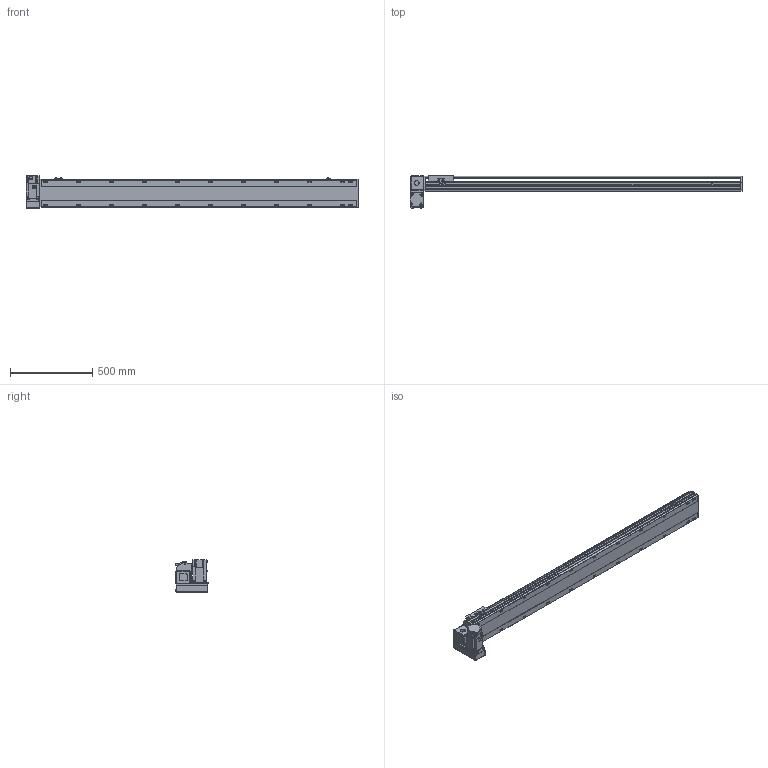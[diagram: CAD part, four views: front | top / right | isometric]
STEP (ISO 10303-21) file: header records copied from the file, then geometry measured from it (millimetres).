
FILE_DESCRIPTION(/* description */ ('STEP AP214'),/* implementation_level */ '2;1');
FILE_NAME(/* name */ 'PBS170-P40-S1650-LD-T75-C1-N(0)',/* time_stamp */ '2022-06-07T09:53:55+02:00',/* author */ ('License CC BY-ND 4.0'),/* organization */ ('CADENAS'),/* preprocessor_version */ 'ST-DEVELOPER v18.102',/* originating_system */ 'PARTsolutions',/* authorisation */ ' ');
FILE_SCHEMA (('AUTOMOTIVE_DESIGN {1 0 10303 214 3 1 1}'));
Length unit declared in the file: millimetre
Products named in the file (7): PBS170-P40-S1650-LD-T75-C1-N(0); PBS170_sensor; PBS170_plant; PBS170_sliser; T75-p1; PBS170T-LD_motors; PBS170-S1650()_body
Assembly tree (8 placements, depth 2):
  PBS170-P40-S1650-LD-T75-C1-N(0)
    PBS170_sensor  x3
    PBS170_plant
    PBS170_sliser
    T75-p1
    PBS170T-LD_motors
    PBS170-S1650()_body
Bounding box: 2013 x 201 x 197.3 mm (x, y, z)
Volume: 15619126.5 mm3; surface area: 2000026.9 mm2
Topology: 8 solids, 8 shells, 1130 faces, 2995 edges, 1952 vertices
Faces by surface type: plane 705, cylinder 363, cone 52, sphere 8, torus 2
Full cylindrical faces by diameter (mm): 3.242 x4, 4 x2, 4.4 x4, 4.5 x6, 4.917 x4, 6 x9, 6.647 x30, 7 x2, 7.5 x4, 8 x8, 8.5 x22, 10 x4, 10.5 x22, 11 x2, 30 x2, 40 x1, 70 x1
Entity records: 32492 total; most frequent: CARTESIAN_POINT 6049, DIRECTION 5510, ORIENTED_EDGE 5208, EDGE_CURVE 2604, AXIS2_PLACEMENT_3D 1927, VERTEX_POINT 1802, LINE 1656, VECTOR 1656
